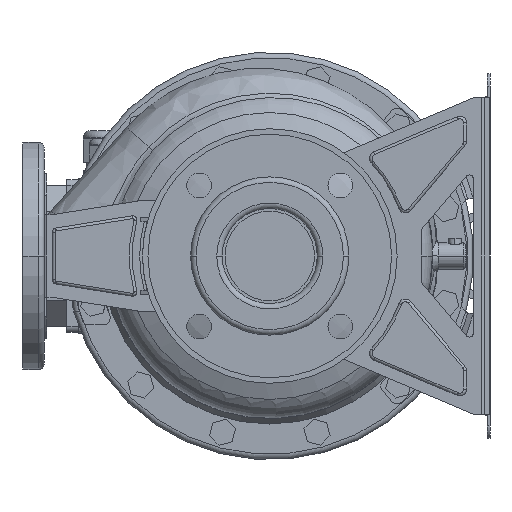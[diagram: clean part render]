
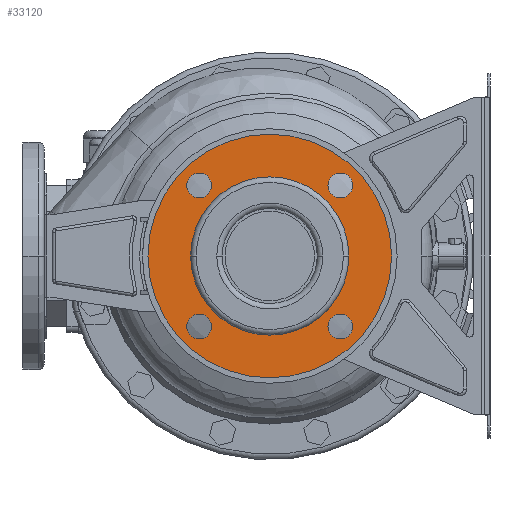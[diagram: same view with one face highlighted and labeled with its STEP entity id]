
A CAD part, left-side view. The second image highlights one B-rep face of the part: STEP entity #33120.
In plain terms, the highlighted planar face has unit normal (-1, 0, 0).
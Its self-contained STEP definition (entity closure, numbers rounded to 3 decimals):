
#32453=CARTESIAN_POINT('',(12.,0.,0.));
#32454=DIRECTION('',(-1.,0.,0.));
#32455=DIRECTION('',(0.,1.,0.));
#32456=AXIS2_PLACEMENT_3D('',#32453,#32454,#32455);
#32461=CARTESIAN_POINT('',(12.,0.,0.));
#32462=DIRECTION('',(1.,0.,0.));
#32463=DIRECTION('',(0.,1.,0.));
#32464=AXIS2_PLACEMENT_3D('',#32461,#32462,#32463);
#32469=CARTESIAN_POINT('',(12.,-51.265,51.265));
#32470=DIRECTION('',(1.,0.,0.));
#32471=DIRECTION('',(0.,1.,0.));
#32472=AXIS2_PLACEMENT_3D('',#32469,#32470,#32471);
#32477=CARTESIAN_POINT('',(12.,-51.265,51.265));
#32478=DIRECTION('',(1.,0.,0.));
#32479=DIRECTION('',(0.,-1.,0.));
#32480=AXIS2_PLACEMENT_3D('',#32477,#32478,#32479);
#32485=CARTESIAN_POINT('',(12.,-51.265,-51.265));
#32486=DIRECTION('',(1.,0.,0.));
#32487=DIRECTION('',(0.,0.,1.));
#32488=AXIS2_PLACEMENT_3D('',#32485,#32486,#32487);
#32493=CARTESIAN_POINT('',(12.,-51.265,-51.265));
#32494=DIRECTION('',(1.,0.,0.));
#32495=DIRECTION('',(0.,0.,-1.));
#32496=AXIS2_PLACEMENT_3D('',#32493,#32494,#32495);
#32501=CARTESIAN_POINT('',(12.,51.265,-51.265));
#32502=DIRECTION('',(1.,0.,0.));
#32503=DIRECTION('',(0.,-1.,0.));
#32504=AXIS2_PLACEMENT_3D('',#32501,#32502,#32503);
#32509=CARTESIAN_POINT('',(12.,51.265,-51.265));
#32510=DIRECTION('',(1.,0.,0.));
#32511=DIRECTION('',(0.,1.,0.));
#32512=AXIS2_PLACEMENT_3D('',#32509,#32510,#32511);
#32517=CARTESIAN_POINT('',(12.,51.265,51.265));
#32518=DIRECTION('',(1.,0.,0.));
#32519=DIRECTION('',(0.,0.,-1.));
#32520=AXIS2_PLACEMENT_3D('',#32517,#32518,#32519);
#32525=CARTESIAN_POINT('',(12.,51.265,51.265));
#32526=DIRECTION('',(1.,0.,0.));
#32527=DIRECTION('',(0.,0.,1.));
#32528=AXIS2_PLACEMENT_3D('',#32525,#32526,#32527);
#32533=CARTESIAN_POINT('',(12.,0.,0.));
#32534=DIRECTION('',(1.,0.,0.));
#32535=DIRECTION('',(0.,1.,0.));
#32536=AXIS2_PLACEMENT_3D('',#32533,#32534,#32535);
#32555=CARTESIAN_POINT('',(12.,0.,0.));
#32556=DIRECTION('',(-1.,0.,0.));
#32557=DIRECTION('',(0.,1.,0.));
#32558=AXIS2_PLACEMENT_3D('',#32555,#32556,#32557);
#32720=CARTESIAN_POINT('',(12.,88.5,0.));
#32722=VERTEX_POINT('',#32720);
#32723=CARTESIAN_POINT('',(12.,57.5,0.));
#32725=VERTEX_POINT('',#32723);
#32752=CARTESIAN_POINT('',(12.,-88.5,0.));
#32754=VERTEX_POINT('',#32752);
#32755=CARTESIAN_POINT('',(12.,-57.5,0.));
#32757=VERTEX_POINT('',#32755);
#32767=CARTESIAN_POINT('',(12.,-42.265,51.265));
#32768=CARTESIAN_POINT('',(12.,-60.265,51.265));
#32769=VERTEX_POINT('',#32767);
#32770=VERTEX_POINT('',#32768);
#32775=CARTESIAN_POINT('',(12.,-51.265,-42.265));
#32776=CARTESIAN_POINT('',(12.,-51.265,-60.265));
#32777=VERTEX_POINT('',#32775);
#32778=VERTEX_POINT('',#32776);
#32783=CARTESIAN_POINT('',(12.,42.265,-51.265));
#32784=CARTESIAN_POINT('',(12.,60.265,-51.265));
#32785=VERTEX_POINT('',#32783);
#32786=VERTEX_POINT('',#32784);
#32791=CARTESIAN_POINT('',(12.,51.265,42.265));
#32792=CARTESIAN_POINT('',(12.,51.265,60.265));
#32793=VERTEX_POINT('',#32791);
#32794=VERTEX_POINT('',#32792);
#33081=CARTESIAN_POINT('',(12.,0.,0.));
#33082=DIRECTION('',(1.,0.,0.));
#33083=DIRECTION('',(0.,-1.,0.));
#33084=AXIS2_PLACEMENT_3D('',#33081,#33082,#33083);
#33085=PLANE('',#33084);
#33086=ORIENTED_EDGE('',*,*,#33074,.F.);
#33087=ORIENTED_EDGE('',*,*,#33063,.T.);
#33088=EDGE_LOOP('',(#33086,#33087));
#33089=FACE_OUTER_BOUND('',#33088,.F.);
#33091=ORIENTED_EDGE('',*,*,#33090,.F.);
#33093=ORIENTED_EDGE('',*,*,#33092,.T.);
#33094=EDGE_LOOP('',(#33091,#33093));
#33095=FACE_BOUND('',#33094,.F.);
#33097=ORIENTED_EDGE('',*,*,#33096,.F.);
#33099=ORIENTED_EDGE('',*,*,#33098,.F.);
#33100=EDGE_LOOP('',(#33097,#33099));
#33101=FACE_BOUND('',#33100,.F.);
#33103=ORIENTED_EDGE('',*,*,#33102,.F.);
#33105=ORIENTED_EDGE('',*,*,#33104,.F.);
#33106=EDGE_LOOP('',(#33103,#33105));
#33107=FACE_BOUND('',#33106,.F.);
#33109=ORIENTED_EDGE('',*,*,#33108,.F.);
#33111=ORIENTED_EDGE('',*,*,#33110,.F.);
#33112=EDGE_LOOP('',(#33109,#33111));
#33113=FACE_BOUND('',#33112,.F.);
#33115=ORIENTED_EDGE('',*,*,#33114,.F.);
#33117=ORIENTED_EDGE('',*,*,#33116,.F.);
#33118=EDGE_LOOP('',(#33115,#33117));
#33119=FACE_BOUND('',#33118,.F.);
#32457=CIRCLE('',#32456,88.5);
#32465=CIRCLE('',#32464,88.5);
#32473=CIRCLE('',#32472,9.);
#32481=CIRCLE('',#32480,9.);
#32489=CIRCLE('',#32488,9.);
#32497=CIRCLE('',#32496,9.);
#32505=CIRCLE('',#32504,9.);
#32513=CIRCLE('',#32512,9.);
#32521=CIRCLE('',#32520,9.);
#32529=CIRCLE('',#32528,9.);
#32537=CIRCLE('',#32536,57.5);
#32559=CIRCLE('',#32558,57.5);
#33063=EDGE_CURVE('',#32722,#32754,#32465,.T.);
#33074=EDGE_CURVE('',#32722,#32754,#32457,.T.);
#33090=EDGE_CURVE('',#32725,#32757,#32537,.T.);
#33092=EDGE_CURVE('',#32725,#32757,#32559,.T.);
#33096=EDGE_CURVE('',#32769,#32770,#32473,.T.);
#33098=EDGE_CURVE('',#32770,#32769,#32481,.T.);
#33102=EDGE_CURVE('',#32777,#32778,#32489,.T.);
#33104=EDGE_CURVE('',#32778,#32777,#32497,.T.);
#33108=EDGE_CURVE('',#32785,#32786,#32505,.T.);
#33110=EDGE_CURVE('',#32786,#32785,#32513,.T.);
#33114=EDGE_CURVE('',#32793,#32794,#32521,.T.);
#33116=EDGE_CURVE('',#32794,#32793,#32529,.T.);
#33120=ADVANCED_FACE('',(#33089,#33095,#33101,#33107,#33113,#33119),#33085,.F.);
